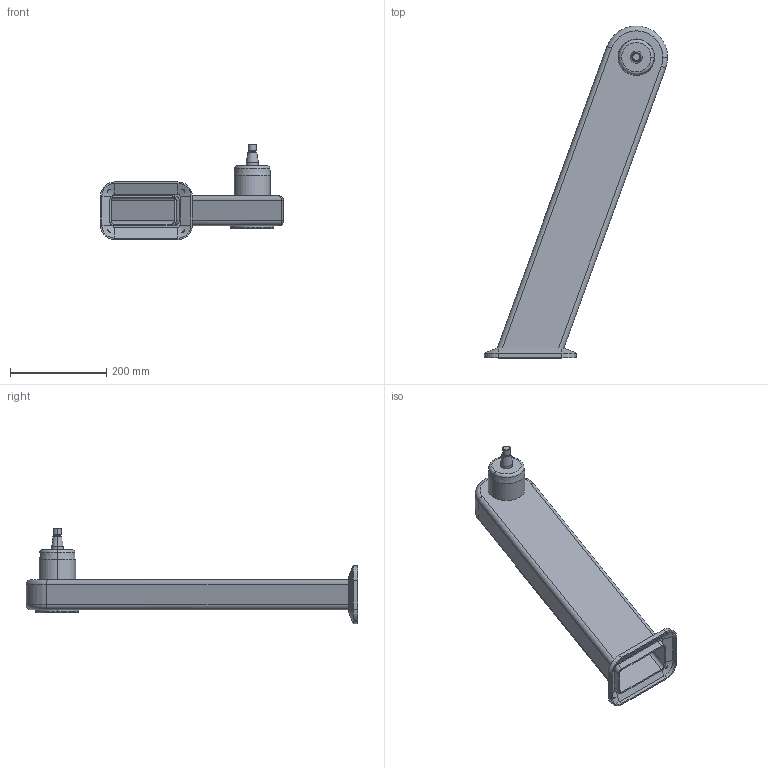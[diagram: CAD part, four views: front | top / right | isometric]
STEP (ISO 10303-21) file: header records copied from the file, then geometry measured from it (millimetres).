
FILE_DESCRIPTION (( 'STEP AP214' ), '1' );
FILE_NAME ('WP710_H625_+20.STEP', '2014-06-27T07:00:25', ( '' ), ( '' ), 'SwSTEP 2.0', 'SolidWorks 2014', '' );
FILE_SCHEMA (( 'AUTOMOTIVE_DESIGN' ));
Length unit declared in the file: millimetre
Products named in the file (1): WP710_H625_+20
Bounding box: 380.7 x 690 x 198 mm (x, y, z)
Volume: 1197614.3 mm3; surface area: 583558.7 mm2
Topology: 1 solids, 1 shells, 114 faces, 259 edges, 158 vertices
Faces by surface type: cylinder 42, plane 40, cone 20, torus 12
Entity records: 3308 total; most frequent: CARTESIAN_POINT 691, DIRECTION 571, ORIENTED_EDGE 518, EDGE_CURVE 259, AXIS2_PLACEMENT_3D 221, VERTEX_POINT 158, VECTOR 129, LINE 129
